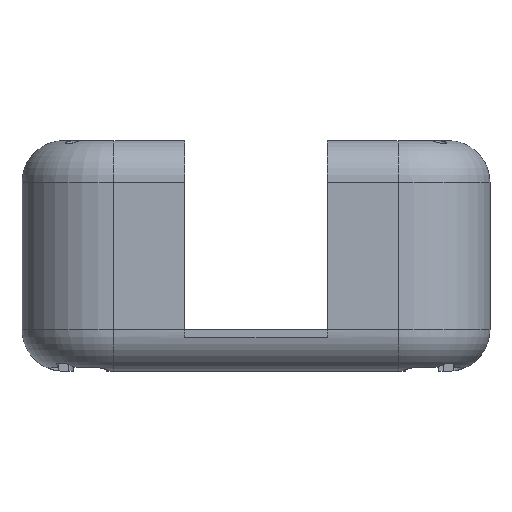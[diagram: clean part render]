
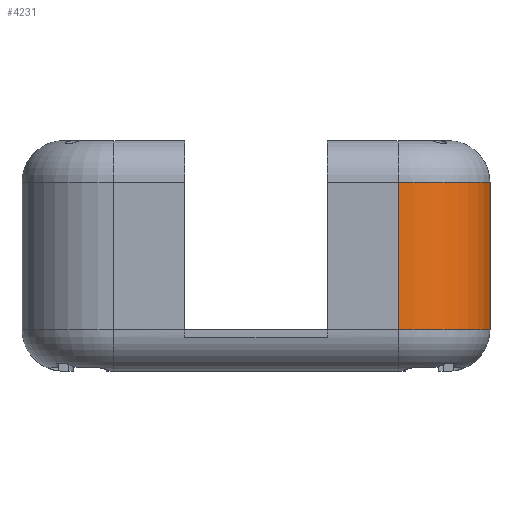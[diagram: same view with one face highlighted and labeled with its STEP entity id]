
A CAD part, front view. The second image highlights one B-rep face of the part: STEP entity #4231.
In plain terms, the highlighted cylindrical face has radius 11 mm (diameter 22 mm), a partial arc.
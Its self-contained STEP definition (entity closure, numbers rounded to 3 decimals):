
#49 = TOROIDAL_SURFACE('',#50,6.,5.);
#50 = AXIS2_PLACEMENT_3D('',#51,#52,#53);
#51 = CARTESIAN_POINT('',(17.,-17.,5.));
#52 = DIRECTION('',(-0.,-0.,-1.));
#53 = DIRECTION('',(0.,-1.,0.));
#395 = VERTEX_POINT('',#396);
#396 = CARTESIAN_POINT('',(17.,-28.,5.));
#423 = EDGE_CURVE('',#395,#424,#426,.T.);
#424 = VERTEX_POINT('',#425);
#425 = CARTESIAN_POINT('',(28.,-17.,5.));
#426 = SURFACE_CURVE('',#427,(#432,#438),.PCURVE_S1.);
#427 = CIRCLE('',#428,11.);
#428 = AXIS2_PLACEMENT_3D('',#429,#430,#431);
#429 = CARTESIAN_POINT('',(17.,-17.,5.));
#430 = DIRECTION('',(0.,0.,1.));
#431 = DIRECTION('',(0.,-1.,0.));
#432 = PCURVE('',#49,#433);
#433 = DEFINITIONAL_REPRESENTATION('',(#434),#437);
#434 = B_SPLINE_CURVE_WITH_KNOTS('',1,(#435,#436),.UNSPECIFIED.,.F.,.F.,
  (2,2),(0.,1.571),.PIECEWISE_BEZIER_KNOTS.);
#435 = CARTESIAN_POINT('',(0.,0.));
#436 = CARTESIAN_POINT('',(-1.571,0.));
#437 = ( GEOMETRIC_REPRESENTATION_CONTEXT(2) 
PARAMETRIC_REPRESENTATION_CONTEXT() REPRESENTATION_CONTEXT('2D SPACE',''
  ) );
#438 = PCURVE('',#439,#444);
#439 = CYLINDRICAL_SURFACE('',#440,11.);
#440 = AXIS2_PLACEMENT_3D('',#441,#442,#443);
#441 = CARTESIAN_POINT('',(17.,-17.,0.));
#442 = DIRECTION('',(0.,0.,1.));
#443 = DIRECTION('',(0.,-1.,0.));
#444 = DEFINITIONAL_REPRESENTATION('',(#445),#449);
#445 = LINE('',#446,#447);
#446 = CARTESIAN_POINT('',(0.,5.));
#447 = VECTOR('',#448,1.);
#448 = DIRECTION('',(1.,0.));
#449 = ( GEOMETRIC_REPRESENTATION_CONTEXT(2) 
PARAMETRIC_REPRESENTATION_CONTEXT() REPRESENTATION_CONTEXT('2D SPACE',''
  ) );
#3419 = PLANE('',#3420);
#3420 = AXIS2_PLACEMENT_3D('',#3421,#3422,#3423);
#3421 = CARTESIAN_POINT('',(28.,-28.,0.));
#3422 = DIRECTION('',(-1.,0.,0.));
#3423 = DIRECTION('',(0.,1.,0.));
#3452 = PLANE('',#3453);
#3453 = AXIS2_PLACEMENT_3D('',#3454,#3455,#3456);
#3454 = CARTESIAN_POINT('',(-28.,-28.,0.));
#3455 = DIRECTION('',(0.,1.,0.));
#3456 = DIRECTION('',(1.,0.,0.));
#4231 = ADVANCED_FACE('',(#4232),#439,.T.);
#4232 = FACE_BOUND('',#4233,.T.);
#4233 = EDGE_LOOP('',(#4234,#4257,#4258,#4281));
#4234 = ORIENTED_EDGE('',*,*,#4235,.F.);
#4235 = EDGE_CURVE('',#395,#4236,#4238,.T.);
#4236 = VERTEX_POINT('',#4237);
#4237 = CARTESIAN_POINT('',(17.,-28.,22.6));
#4238 = SURFACE_CURVE('',#4239,(#4243,#4250),.PCURVE_S1.);
#4239 = LINE('',#4240,#4241);
#4240 = CARTESIAN_POINT('',(17.,-28.,0.));
#4241 = VECTOR('',#4242,1.);
#4242 = DIRECTION('',(0.,0.,1.));
#4243 = PCURVE('',#439,#4244);
#4244 = DEFINITIONAL_REPRESENTATION('',(#4245),#4249);
#4245 = LINE('',#4246,#4247);
#4246 = CARTESIAN_POINT('',(0.,0.));
#4247 = VECTOR('',#4248,1.);
#4248 = DIRECTION('',(0.,1.));
#4249 = ( GEOMETRIC_REPRESENTATION_CONTEXT(2) 
PARAMETRIC_REPRESENTATION_CONTEXT() REPRESENTATION_CONTEXT('2D SPACE',''
  ) );
#4250 = PCURVE('',#3452,#4251);
#4251 = DEFINITIONAL_REPRESENTATION('',(#4252),#4256);
#4252 = LINE('',#4253,#4254);
#4253 = CARTESIAN_POINT('',(45.,0.));
#4254 = VECTOR('',#4255,1.);
#4255 = DIRECTION('',(0.,-1.));
#4256 = ( GEOMETRIC_REPRESENTATION_CONTEXT(2) 
PARAMETRIC_REPRESENTATION_CONTEXT() REPRESENTATION_CONTEXT('2D SPACE',''
  ) );
#4257 = ORIENTED_EDGE('',*,*,#423,.T.);
#4258 = ORIENTED_EDGE('',*,*,#4259,.T.);
#4259 = EDGE_CURVE('',#424,#4260,#4262,.T.);
#4260 = VERTEX_POINT('',#4261);
#4261 = CARTESIAN_POINT('',(28.,-17.,22.6));
#4262 = SURFACE_CURVE('',#4263,(#4267,#4274),.PCURVE_S1.);
#4263 = LINE('',#4264,#4265);
#4264 = CARTESIAN_POINT('',(28.,-17.,0.));
#4265 = VECTOR('',#4266,1.);
#4266 = DIRECTION('',(0.,0.,1.));
#4267 = PCURVE('',#439,#4268);
#4268 = DEFINITIONAL_REPRESENTATION('',(#4269),#4273);
#4269 = LINE('',#4270,#4271);
#4270 = CARTESIAN_POINT('',(1.571,0.));
#4271 = VECTOR('',#4272,1.);
#4272 = DIRECTION('',(0.,1.));
#4273 = ( GEOMETRIC_REPRESENTATION_CONTEXT(2) 
PARAMETRIC_REPRESENTATION_CONTEXT() REPRESENTATION_CONTEXT('2D SPACE',''
  ) );
#4274 = PCURVE('',#3419,#4275);
#4275 = DEFINITIONAL_REPRESENTATION('',(#4276),#4280);
#4276 = LINE('',#4277,#4278);
#4277 = CARTESIAN_POINT('',(11.,0.));
#4278 = VECTOR('',#4279,1.);
#4279 = DIRECTION('',(0.,-1.));
#4280 = ( GEOMETRIC_REPRESENTATION_CONTEXT(2) 
PARAMETRIC_REPRESENTATION_CONTEXT() REPRESENTATION_CONTEXT('2D SPACE',''
  ) );
#4281 = ORIENTED_EDGE('',*,*,#4282,.F.);
#4282 = EDGE_CURVE('',#4236,#4260,#4283,.T.);
#4283 = SURFACE_CURVE('',#4284,(#4289,#4296),.PCURVE_S1.);
#4284 = CIRCLE('',#4285,11.);
#4285 = AXIS2_PLACEMENT_3D('',#4286,#4287,#4288);
#4286 = CARTESIAN_POINT('',(17.,-17.,22.6));
#4287 = DIRECTION('',(0.,0.,1.));
#4288 = DIRECTION('',(0.,-1.,0.));
#4289 = PCURVE('',#439,#4290);
#4290 = DEFINITIONAL_REPRESENTATION('',(#4291),#4295);
#4291 = LINE('',#4292,#4293);
#4292 = CARTESIAN_POINT('',(0.,22.6));
#4293 = VECTOR('',#4294,1.);
#4294 = DIRECTION('',(1.,0.));
#4295 = ( GEOMETRIC_REPRESENTATION_CONTEXT(2) 
PARAMETRIC_REPRESENTATION_CONTEXT() REPRESENTATION_CONTEXT('2D SPACE',''
  ) );
#4296 = PCURVE('',#4297,#4302);
#4297 = TOROIDAL_SURFACE('',#4298,6.,5.);
#4298 = AXIS2_PLACEMENT_3D('',#4299,#4300,#4301);
#4299 = CARTESIAN_POINT('',(17.,-17.,22.6));
#4300 = DIRECTION('',(0.,0.,1.));
#4301 = DIRECTION('',(0.,-1.,0.));
#4302 = DEFINITIONAL_REPRESENTATION('',(#4303),#4307);
#4303 = LINE('',#4304,#4305);
#4304 = CARTESIAN_POINT('',(0.,0.));
#4305 = VECTOR('',#4306,1.);
#4306 = DIRECTION('',(1.,0.));
#4307 = ( GEOMETRIC_REPRESENTATION_CONTEXT(2) 
PARAMETRIC_REPRESENTATION_CONTEXT() REPRESENTATION_CONTEXT('2D SPACE',''
  ) );
